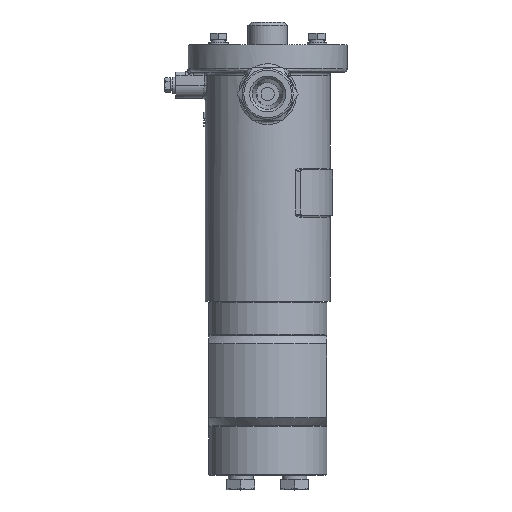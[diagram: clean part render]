
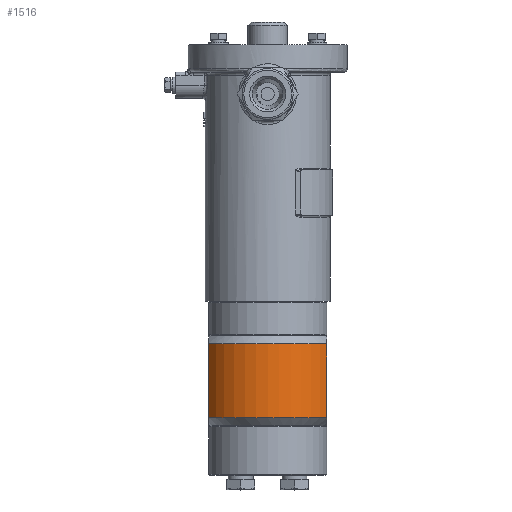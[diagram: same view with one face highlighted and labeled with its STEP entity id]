
A CAD part, top view. The second image highlights one B-rep face of the part: STEP entity #1516.
In plain terms, the highlighted cylindrical face has radius 42.5 mm (diameter 85 mm), a partial arc.
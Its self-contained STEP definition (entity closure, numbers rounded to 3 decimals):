
#1516=ADVANCED_FACE('',(#16145),#16147,.T.);
#16145=FACE_OUTER_BOUND('',#16146,.T.);
#16146=EDGE_LOOP('',(#26078,#26079,#26080,#26081));
#16147=CYLINDRICAL_SURFACE('',#16148,42.5);
#16148=AXIS2_PLACEMENT_3D('',#16149,#16150,#16151);
#16149=CARTESIAN_POINT('',(0.,27.,0.));
#16150=DIRECTION('',(0.,-1.,0.));
#16151=DIRECTION('',(1.,0.,0.));
#26078=ORIENTED_EDGE('',*,*,#33079,.T.);
#26079=ORIENTED_EDGE('',*,*,#33090,.T.);
#26080=ORIENTED_EDGE('',*,*,#33086,.T.);
#26081=ORIENTED_EDGE('',*,*,#33099,.F.);
#33079=EDGE_CURVE('',#40035,#40033,#40036,.F.);
#33086=EDGE_CURVE('',#40048,#40046,#40049,.T.);
#33090=EDGE_CURVE('',#40033,#40048,#40054,.T.);
#33099=EDGE_CURVE('',#40035,#40046,#40066,.T.);
#40033=VERTEX_POINT('',#61979);
#40035=VERTEX_POINT('',#62007);
#40036=LINE('',#62008,#62009);
#40046=VERTEX_POINT('',#62084);
#40048=VERTEX_POINT('',#62116);
#40049=LINE('',#62117,#62118);
#40054=CIRCLE('',#62182,42.5);
#40066=CIRCLE('',#62219,42.5);
#61979=CARTESIAN_POINT('',(36.,27.,22.589));
#62007=CARTESIAN_POINT('',(36.,-18.,22.589));
#62008=CARTESIAN_POINT('',(36.,27.,22.589));
#62009=VECTOR('',#62010,1.);
#62010=DIRECTION('',(0.,-1.,0.));
#62084=CARTESIAN_POINT('',(-36.,-18.,22.589));
#62116=CARTESIAN_POINT('',(-36.,27.,22.589));
#62117=CARTESIAN_POINT('',(-36.,27.,22.589));
#62118=VECTOR('',#62119,1.);
#62119=DIRECTION('',(0.,-1.,0.));
#62182=AXIS2_PLACEMENT_3D('',#62183,#62184,#62185);
#62183=CARTESIAN_POINT('',(0.,27.,0.));
#62184=DIRECTION('',(0.,-1.,0.));
#62185=DIRECTION('',(0.847,0.,0.531));
#62219=AXIS2_PLACEMENT_3D('',#62220,#62221,#62222);
#62220=CARTESIAN_POINT('',(0.,-18.,0.));
#62221=DIRECTION('',(0.,-1.,0.));
#62222=DIRECTION('',(0.847,0.,0.531));
